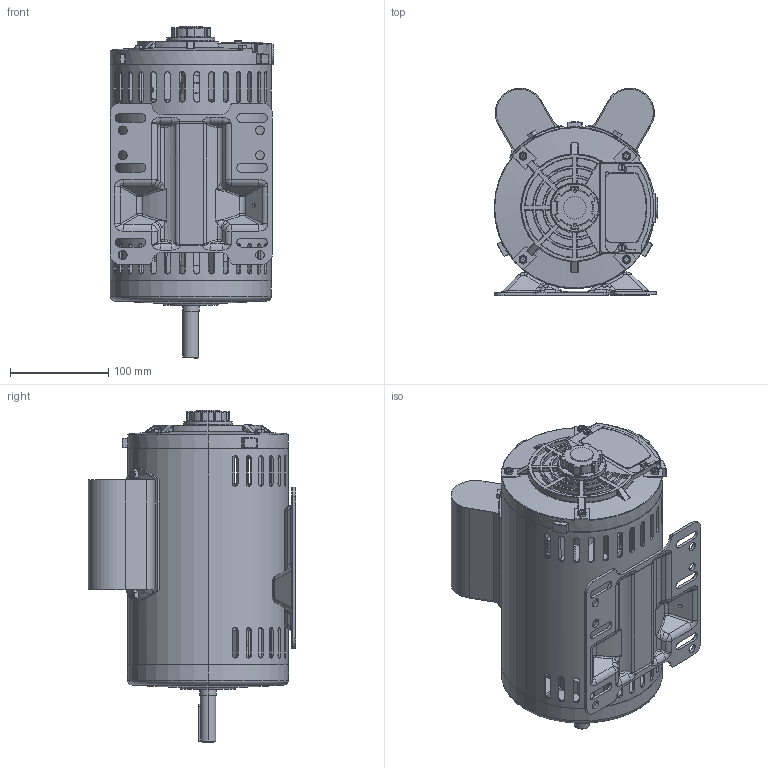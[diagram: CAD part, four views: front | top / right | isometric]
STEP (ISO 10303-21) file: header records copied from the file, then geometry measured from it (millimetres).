
FILE_DESCRIPTION (( 'STEP AP203' ), '1' );
FILE_NAME ('OPE 56 載蜊ヶ裔睿綴裔.STEP', '2025-03-01T08:03:49', ( 'User' ), ( 'China' ), 'SwSTEP 2.0', 'SolidWorks 2019', '' );
FILE_SCHEMA (( 'CONFIG_CONTROL_DESIGN' ));
Length unit declared in the file: millimetre
Products named in the file (3): 綴裔1; OPE 56 載蜊ヶ裔睿綴裔; zhut
Assembly tree (2 placements, depth 2):
  OPE 56 載蜊ヶ裔睿綴裔
    zhut
    綴裔1
Bounding box: 166.5 x 211.34 x 338.15 mm (x, y, z)
Volume: 1766613.9 mm3; surface area: 697148.1 mm2
Topology: 28 solids, 28 shells, 3122 faces, 8241 edges, 5177 vertices
Faces by surface type: cylinder 1313, plane 1026, bspline 285, torus 250, cone 192, sphere 56
Entity records: 134513 total; most frequent: CARTESIAN_POINT 60624, ORIENTED_EDGE 16334, DIRECTION 14190, EDGE_CURVE 8167, AXIS2_PLACEMENT_3D 5271, VERTEX_POINT 5177, LINE 3648, VECTOR 3648
